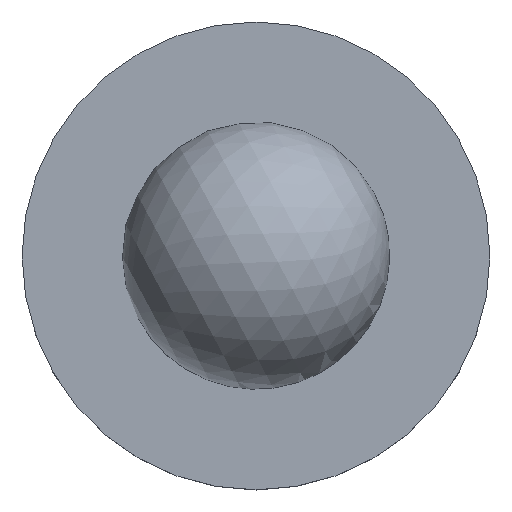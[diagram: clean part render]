
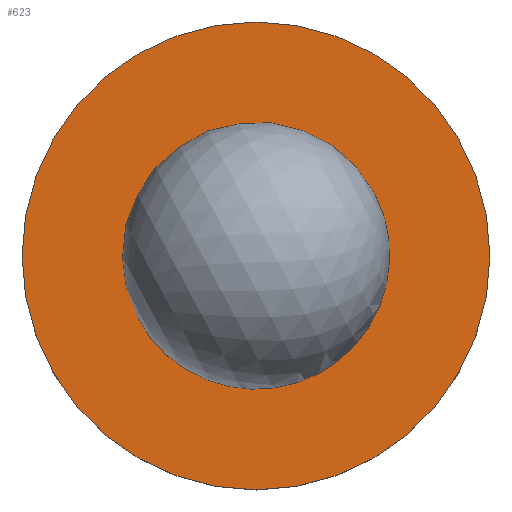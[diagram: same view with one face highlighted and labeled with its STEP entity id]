
A CAD part, top view. The second image highlights one B-rep face of the part: STEP entity #623.
In plain terms, the highlighted planar face has unit normal (0, 0, 1).
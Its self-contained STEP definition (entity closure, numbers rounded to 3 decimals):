
#45=FACE_BOUND('',#147,.T.);
#63=PLANE('',#779);
#110=FACE_OUTER_BOUND('',#146,.T.);
#146=EDGE_LOOP('',(#524));
#147=EDGE_LOOP('',(#525,#526));
#270=CIRCLE('',#773,3.324);
#271=CIRCLE('',#774,3.324);
#273=CIRCLE('',#777,17.5);
#314=VERTEX_POINT('',#1101);
#315=VERTEX_POINT('',#1102);
#317=VERTEX_POINT('',#1109);
#388=EDGE_CURVE('',#314,#315,#270,.T.);
#389=EDGE_CURVE('',#315,#314,#271,.T.);
#392=EDGE_CURVE('',#317,#317,#273,.T.);
#524=ORIENTED_EDGE('',*,*,#392,.F.);
#525=ORIENTED_EDGE('',*,*,#388,.T.);
#526=ORIENTED_EDGE('',*,*,#389,.T.);
#623=ADVANCED_FACE('',(#110,#45),#63,.F.);
#773=AXIS2_PLACEMENT_3D('',#1103,#896,#897);
#774=AXIS2_PLACEMENT_3D('',#1104,#898,#899);
#777=AXIS2_PLACEMENT_3D('',#1110,#905,#906);
#779=AXIS2_PLACEMENT_3D('',#1114,#910,#911);
#896=DIRECTION('center_axis',(0.,0.,-1.));
#897=DIRECTION('ref_axis',(1.,0.,0.));
#898=DIRECTION('center_axis',(0.,0.,-1.));
#899=DIRECTION('ref_axis',(1.,0.,0.));
#905=DIRECTION('center_axis',(0.,0.,-1.));
#906=DIRECTION('ref_axis',(-1.,0.,0.));
#910=DIRECTION('center_axis',(0.,0.,-1.));
#911=DIRECTION('ref_axis',(-1.,0.,0.));
#1101=CARTESIAN_POINT('',(3.324,0.,5.));
#1102=CARTESIAN_POINT('',(-3.324,0.,5.));
#1103=CARTESIAN_POINT('Origin',(0.,0.,5.));
#1104=CARTESIAN_POINT('Origin',(0.,0.,5.));
#1109=CARTESIAN_POINT('',(17.5,0.,5.));
#1110=CARTESIAN_POINT('Origin',(0.,0.,5.));
#1114=CARTESIAN_POINT('Origin',(0.,0.,5.));
